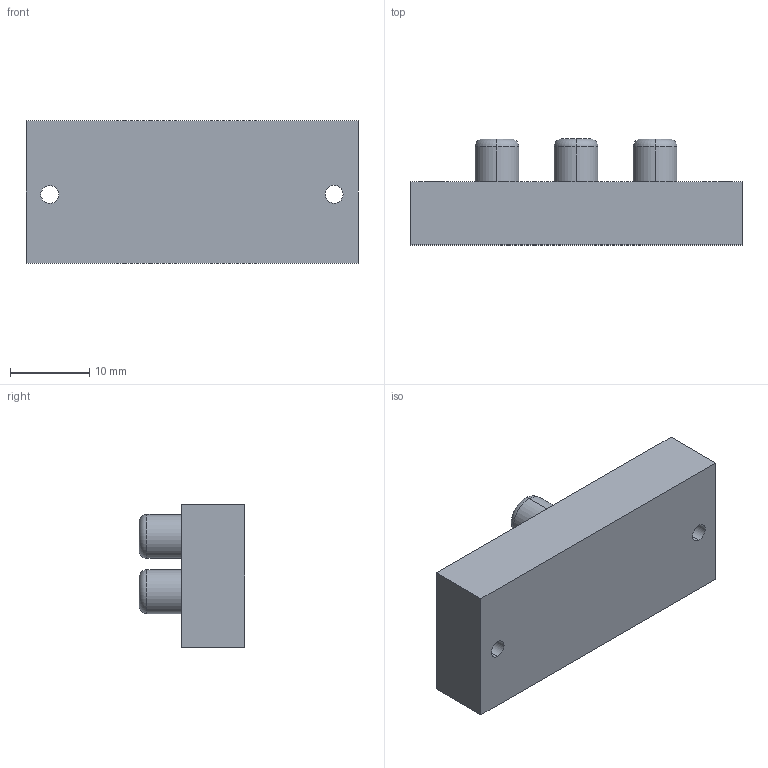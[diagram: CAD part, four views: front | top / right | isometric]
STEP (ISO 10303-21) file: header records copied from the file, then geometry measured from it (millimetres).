
FILE_DESCRIPTION (( 'STEP AP203' ), '1' );
FILE_NAME ('SOCKET BASE.STEP', '2021-09-16T07:12:06', ( '' ), ( '' ), 'SwSTEP 2.0', 'SolidWorks 2019', '' );
FILE_SCHEMA (( 'CONFIG_CONTROL_DESIGN' ));
Length unit declared in the file: millimetre
Products named in the file (1): SOCKET BASE
Bounding box: 42 x 13.4 x 18 mm (x, y, z)
Volume: 6361.6 mm3; surface area: 2823.8 mm2
Topology: 1 solids, 1 shells, 29 faces, 62 edges, 38 vertices
Faces by surface type: cylinder 10, plane 9, torus 6, cone 4
Entity records: 877 total; most frequent: DIRECTION 158, CARTESIAN_POINT 130, ORIENTED_EDGE 124, AXIS2_PLACEMENT_3D 66, EDGE_CURVE 62, VERTEX_POINT 38, CIRCLE 36, EDGE_LOOP 36
